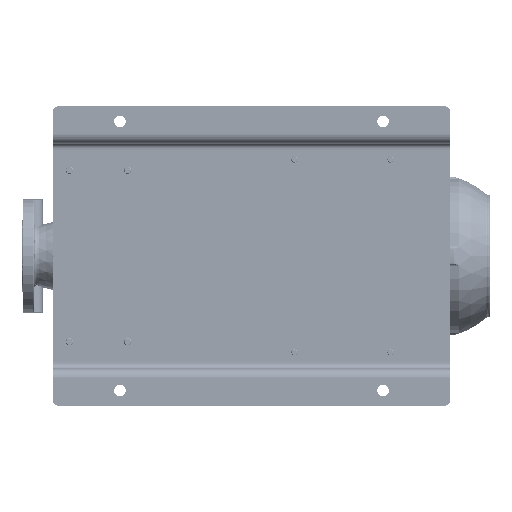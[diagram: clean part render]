
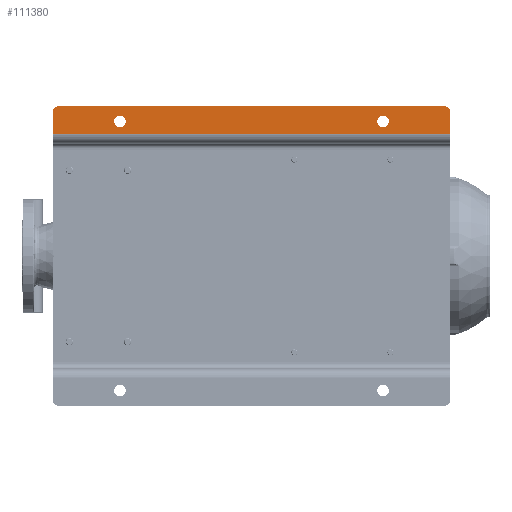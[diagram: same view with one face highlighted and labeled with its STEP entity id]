
A CAD part, front view. The second image highlights one B-rep face of the part: STEP entity #111380.
In plain terms, the highlighted planar face has unit normal (0, -1, 0).
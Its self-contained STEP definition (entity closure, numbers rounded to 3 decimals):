
#2127 = CARTESIAN_POINT ( 'NONE',  ( 474.5, 0., -540. ) ) ;
#2291 = FACE_BOUND ( 'NONE', #102763, .T. ) ;
#12489 = ORIENTED_EDGE ( 'NONE', *, *, #110374, .T. ) ;
#13590 = DIRECTION ( 'NONE',  ( 0., 0., -1. ) ) ;
#16679 = EDGE_LOOP ( 'NONE', ( #12489, #104128 ) ) ;
#20423 = VERTEX_POINT ( 'NONE', #42216 ) ;
#22108 = EDGE_CURVE ( 'NONE', #85844, #80885, #123440, .T. ) ;
#22142 = CARTESIAN_POINT ( 'NONE',  ( 455.5, 0., -540. ) ) ;
#23857 = EDGE_LOOP ( 'NONE', ( #140523, #165240, #40369, #168048, #84780, #81106 ) ) ;
#26056 = EDGE_CURVE ( 'NONE', #29215, #80885, #54242, .T. ) ;
#26877 = AXIS2_PLACEMENT_3D ( 'NONE', #80539, #40445, #134751 ) ;
#29215 = VERTEX_POINT ( 'NONE', #72233 ) ;
#29563 = DIRECTION ( 'NONE',  ( 0., 1., 0. ) ) ;
#29932 = AXIS2_PLACEMENT_3D ( 'NONE', #57453, #112612, #109116 ) ;
#31256 = DIRECTION ( 'NONE',  ( 0., 0., -1. ) ) ;
#32138 = VERTEX_POINT ( 'NONE', #22142 ) ;
#33105 = DIRECTION ( 'NONE',  ( 0., 1., 0. ) ) ;
#36263 = CARTESIAN_POINT ( 'NONE',  ( 455.5, 0., -110. ) ) ;
#36630 = DIRECTION ( 'NONE',  ( 0., 0., -1. ) ) ;
#37815 = CIRCLE ( 'NONE', #94628, 9.5 ) ;
#38785 = EDGE_CURVE ( 'NONE', #120464, #85844, #85927, .T. ) ;
#40369 = ORIENTED_EDGE ( 'NONE', *, *, #44935, .T. ) ;
#40402 = VERTEX_POINT ( 'NONE', #36263 ) ;
#40445 = DIRECTION ( 'NONE',  ( 0., -1., 0. ) ) ;
#40886 = DIRECTION ( 'NONE',  ( 1., 0., 0. ) ) ;
#42216 = CARTESIAN_POINT ( 'NONE',  ( 474.5, 0., -110. ) ) ;
#42626 = EDGE_CURVE ( 'NONE', #20423, #40402, #156609, .T. ) ;
#43586 = AXIS2_PLACEMENT_3D ( 'NONE', #60684, #33105, #36630 ) ;
#44935 = EDGE_CURVE ( 'NONE', #128154, #105620, #174582, .T. ) ;
#46982 = CARTESIAN_POINT ( 'NONE',  ( 490., 0., -10. ) ) ;
#48188 = CIRCLE ( 'NONE', #51117, 10. ) ;
#49424 = CARTESIAN_POINT ( 'NONE',  ( 490., 0., -640. ) ) ;
#50106 = DIRECTION ( 'NONE',  ( 1., 0., 0. ) ) ;
#51117 = AXIS2_PLACEMENT_3D ( 'NONE', #109771, #164002, #136435 ) ;
#52729 = CARTESIAN_POINT ( 'NONE',  ( 429., 0., -650. ) ) ;
#54242 = LINE ( 'NONE', #108532, #83456 ) ;
#57453 = CARTESIAN_POINT ( 'NONE',  ( 429., 0., -650. ) ) ;
#57955 = CARTESIAN_POINT ( 'NONE',  ( 445., 0., -650. ) ) ;
#60684 = CARTESIAN_POINT ( 'NONE',  ( 465., 0., -110. ) ) ;
#66344 = CIRCLE ( 'NONE', #43586, 9.5 ) ;
#66766 = EDGE_CURVE ( 'NONE', #105620, #120464, #48188, .T. ) ;
#68842 = VERTEX_POINT ( 'NONE', #2127 ) ;
#71340 = LINE ( 'NONE', #57955, #111873 ) ;
#71692 = CARTESIAN_POINT ( 'NONE',  ( 490., 0., -650. ) ) ;
#72233 = CARTESIAN_POINT ( 'NONE',  ( 445., 0., 0. ) ) ;
#80539 = CARTESIAN_POINT ( 'NONE',  ( 480., 0., -10. ) ) ;
#80885 = VERTEX_POINT ( 'NONE', #156282 ) ;
#80924 = DIRECTION ( 'NONE',  ( 0., 0., -1. ) ) ;
#81106 = ORIENTED_EDGE ( 'NONE', *, *, #22108, .T. ) ;
#81809 = CARTESIAN_POINT ( 'NONE',  ( 465., 0., -110. ) ) ;
#82449 = FACE_BOUND ( 'NONE', #16679, .T. ) ;
#83456 = VECTOR ( 'NONE', #40886, 1000. ) ;
#84780 = ORIENTED_EDGE ( 'NONE', *, *, #38785, .T. ) ;
#85844 = VERTEX_POINT ( 'NONE', #46982 ) ;
#85927 = LINE ( 'NONE', #71692, #99319 ) ;
#88530 = DIRECTION ( 'NONE',  ( 0., 0., -1. ) ) ;
#90190 = EDGE_CURVE ( 'NONE', #68842, #32138, #37815, .T. ) ;
#93212 = ORIENTED_EDGE ( 'NONE', *, *, #42626, .T. ) ;
#94628 = AXIS2_PLACEMENT_3D ( 'NONE', #107946, #29563, #13590 ) ;
#96669 = FACE_OUTER_BOUND ( 'NONE', #23857, .T. ) ;
#99319 = VECTOR ( 'NONE', #171881, 1000. ) ;
#102763 = EDGE_LOOP ( 'NONE', ( #111664, #93212 ) ) ;
#103036 = CARTESIAN_POINT ( 'NONE',  ( 480., 0., -650. ) ) ;
#104128 = ORIENTED_EDGE ( 'NONE', *, *, #90190, .T. ) ;
#105620 = VERTEX_POINT ( 'NONE', #103036 ) ;
#106798 = EDGE_CURVE ( 'NONE', #29215, #128154, #71340, .T. ) ;
#107946 = CARTESIAN_POINT ( 'NONE',  ( 465., 0., -540. ) ) ;
#108532 = CARTESIAN_POINT ( 'NONE',  ( 429., 0., 0. ) ) ;
#109116 = DIRECTION ( 'NONE',  ( 0., 0., -1. ) ) ;
#109771 = CARTESIAN_POINT ( 'NONE',  ( 480., 0., -640. ) ) ;
#110374 = EDGE_CURVE ( 'NONE', #32138, #68842, #138156, .T. ) ;
#111380 = ADVANCED_FACE ( 'NONE', ( #2291, #82449, #96669 ), #136667, .T. ) ;
#111664 = ORIENTED_EDGE ( 'NONE', *, *, #164815, .T. ) ;
#111873 = VECTOR ( 'NONE', #31256, 1000. ) ;
#112612 = DIRECTION ( 'NONE',  ( 0., -1., 0. ) ) ;
#120464 = VERTEX_POINT ( 'NONE', #49424 ) ;
#121834 = DIRECTION ( 'NONE',  ( 0., 1., 0. ) ) ;
#123440 = CIRCLE ( 'NONE', #26877, 10. ) ;
#128154 = VERTEX_POINT ( 'NONE', #163772 ) ;
#128168 = AXIS2_PLACEMENT_3D ( 'NONE', #81809, #121834, #80924 ) ;
#134751 = DIRECTION ( 'NONE',  ( 0., 0., -1. ) ) ;
#136435 = DIRECTION ( 'NONE',  ( 0., 0., -1. ) ) ;
#136667 = PLANE ( 'NONE',  #29932 ) ;
#138156 = CIRCLE ( 'NONE', #169387, 9.5 ) ;
#140523 = ORIENTED_EDGE ( 'NONE', *, *, #26056, .F. ) ;
#141897 = CARTESIAN_POINT ( 'NONE',  ( 465., 0., -540. ) ) ;
#148082 = VECTOR ( 'NONE', #50106, 1000. ) ;
#154341 = DIRECTION ( 'NONE',  ( 0., 1., 0. ) ) ;
#156282 = CARTESIAN_POINT ( 'NONE',  ( 480., 0., 0. ) ) ;
#156609 = CIRCLE ( 'NONE', #128168, 9.5 ) ;
#163772 = CARTESIAN_POINT ( 'NONE',  ( 445., 0., -650. ) ) ;
#164002 = DIRECTION ( 'NONE',  ( 0., -1., 0. ) ) ;
#164815 = EDGE_CURVE ( 'NONE', #40402, #20423, #66344, .T. ) ;
#165240 = ORIENTED_EDGE ( 'NONE', *, *, #106798, .T. ) ;
#168048 = ORIENTED_EDGE ( 'NONE', *, *, #66766, .T. ) ;
#169387 = AXIS2_PLACEMENT_3D ( 'NONE', #141897, #154341, #88530 ) ;
#171881 = DIRECTION ( 'NONE',  ( 0., 0., 1. ) ) ;
#174582 = LINE ( 'NONE', #52729, #148082 ) ;
